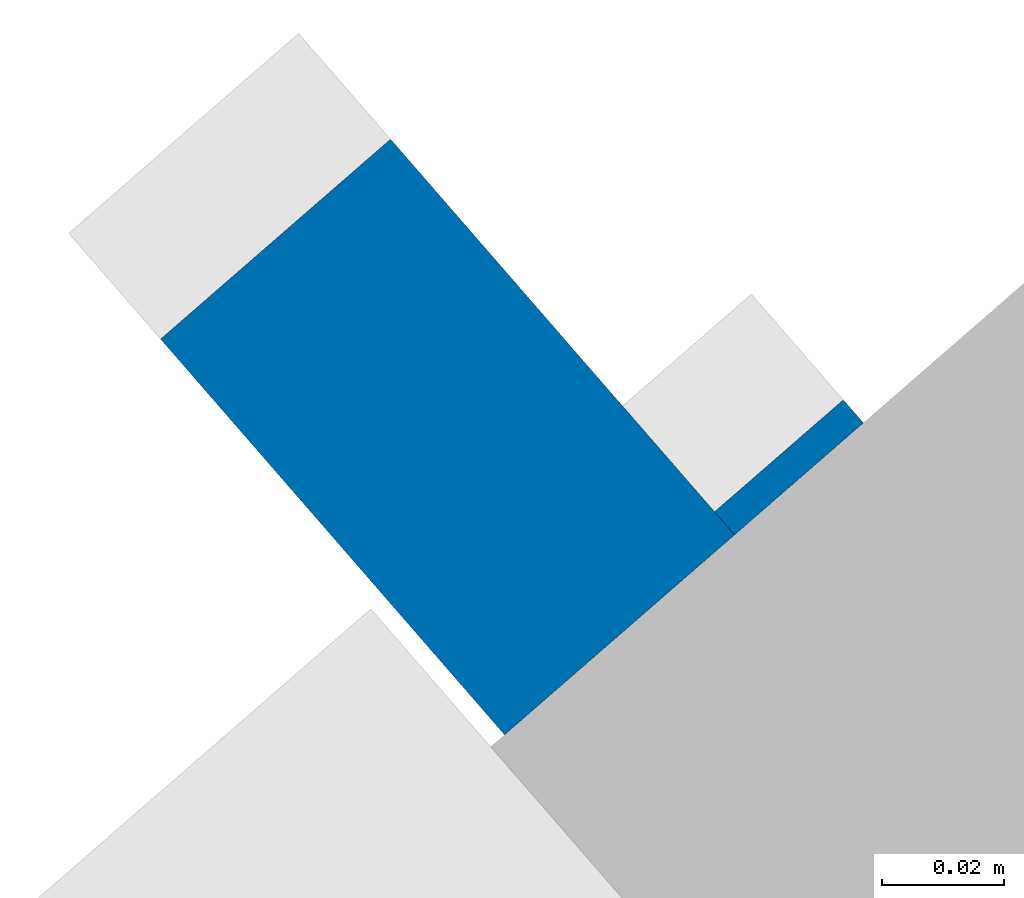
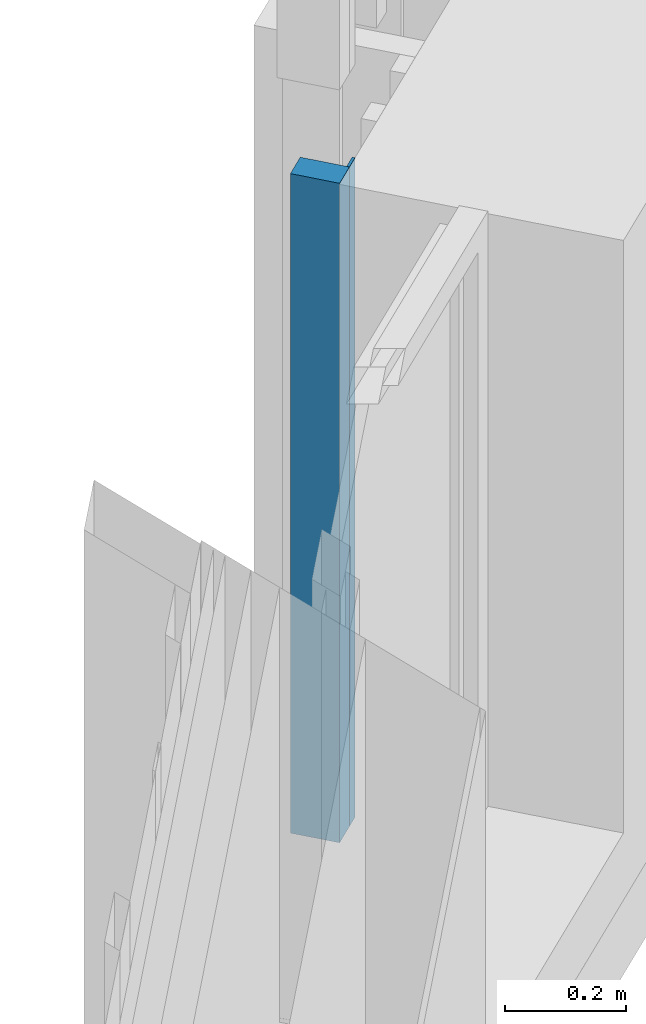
# One storey, part 238 of 390: 2 walls.
"""IFC2X3 building model written with IfcOpenShell, lengths in millimetres."""

from ifc_helpers import new_model, entity, si_unit, converted_unit, derived_unit, money_unit, direction, frame, origin_with_axes, place, context, subcontext, project, spatial, faceted_brep, material, type_object, element, save


model = new_model("IFC2X3")

# Units and contexts
model_context = context("Model", 3, precision=1e-05, world=origin_with_axes(), true_north=direction((0.0, 1.0)))
body_context = subcontext(model_context, "Body", "Model", "MODEL_VIEW")
ifc_project = project(units=[si_unit("LENGTHUNIT", "METRE", prefix="MILLI"), si_unit("AREAUNIT", "SQUARE_METRE"), si_unit("VOLUMEUNIT", "CUBIC_METRE"), converted_unit("PLANEANGLEUNIT", "DEGREE", entity("IfcPlaneAngleMeasure", 0.0174532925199), si_unit("PLANEANGLEUNIT", "RADIAN"), dimensions=[0, 0, 0, 0, 0, 0, 0]), si_unit("SOLIDANGLEUNIT", "STERADIAN"), money_unit("EUR"), converted_unit("TIMEUNIT", "Year", entity("IfcTimeMeasure", 31556926.0), si_unit("TIMEUNIT", "SECOND"), dimensions=[0, 0, 1, 0, 0, 0, 0]), si_unit("MASSUNIT", "GRAM", prefix="KILO"), si_unit("THERMODYNAMICTEMPERATUREUNIT", "DEGREE_CELSIUS"), si_unit("LUMINOUSINTENSITYUNIT", "LUMEN"), si_unit("ENERGYUNIT", "JOULE", prefix="MEGA"), derived_unit("THERMALCONDUCTANCEUNIT", [(si_unit("POWERUNIT", "WATT"), 1), (si_unit("LENGTHUNIT", "METRE"), -1), (si_unit("THERMODYNAMICTEMPERATUREUNIT", "KELVIN"), -1)]), derived_unit("SPECIFICHEATCAPACITYUNIT", [(si_unit("ENERGYUNIT", "JOULE"), 1), (si_unit("MASSUNIT", "GRAM", prefix="KILO"), -1), (si_unit("THERMODYNAMICTEMPERATUREUNIT", "KELVIN"), -1)]), derived_unit("MASSDENSITYUNIT", [(si_unit("MASSUNIT", "GRAM", prefix="KILO"), 1), (si_unit("VOLUMEUNIT", "CUBIC_METRE"), -1)])], contexts=[model_context])

# Site, building, storey
site_placement = place(None, origin_with_axes())
site = spatial("IfcSite", under=ifc_project, at=site_placement, Name="Site", CompositionType="ELEMENT")
building_placement = place(site_placement, origin_with_axes())
building = spatial("IfcBuilding", under=site, at=building_placement, Name="Building", CompositionType="ELEMENT")
storey_placement = place(building_placement, origin_with_axes())
storey = spatial("IfcBuildingStorey", under=building, at=storey_placement, Name="1 korrus", CompositionType="ELEMENT", Elevation=0.0)

# Walls
ifc_material = material(Name="Site specified")
wall_type = type_object("IfcWallType", Name="Puitfassaadi ribistik", PredefinedType="NOTDEFINED")
wall_1_placement = place(storey_placement, frame((142033.077606, 93458.8360407, 0.0), z_axis=(0.0, 0.0, 1.0), x_axis=(0.754709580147, 0.656059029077, 0.0)))
element("IfcWall", 1, at=wall_1_placement, inside=storey, type_object=wall_type, material=ifc_material, Name="Site specified", context=body_context, shape_type="Brep", body=[
    faceted_brep([(-14.0, 14.0, 1330.0), (-14.0, 8.98515975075, 1330.0), (14.0000000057, 8.98509343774, 1330.0), (14.0, 14.0, 1330.0), (-14.0, 14.0, 0.0), (-14.0, 8.98274076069, 0.0), (14.0, 8.98267736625, 0.0), (14.0, 14.0, 0.0)], [[[0, 1, 2, 3]], [[4, 5, 1, 0]], [[5, 6, 2, 1]], [[3, 2, 6, 7]], [[0, 3, 7, 4]], [[7, 6, 5, 4]]]),
])
wall_2_placement = place(storey_placement, frame((141977.073542, 93463.8154766, 0.0), z_axis=(0.0, 0.0, 1.0), x_axis=(0.754709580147, 0.656059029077, 0.0)))
element("IfcWall", 2, at=wall_2_placement, inside=storey, type_object=wall_type, material=ifc_material, Name="Site specified", context=body_context, shape_type="Brep", body=[
    faceted_brep([(-25.0, 54.5, 1330.0), (-25.0, -31.5147218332, 1330.0), (25.0000000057, -31.5148402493, 1330.0), (25.0, 54.5, 1330.0), (-25.0, 54.5, 0.0), (-25.0, -31.517146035, 0.0), (25.0, -31.5172592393, 0.0), (25.0, 54.5, 0.0)], [[[0, 1, 2, 3]], [[4, 5, 1, 0]], [[5, 6, 2, 1]], [[3, 2, 6, 7]], [[0, 3, 7, 4]], [[7, 6, 5, 4]]]),
])

save(model, "model.ifc")
